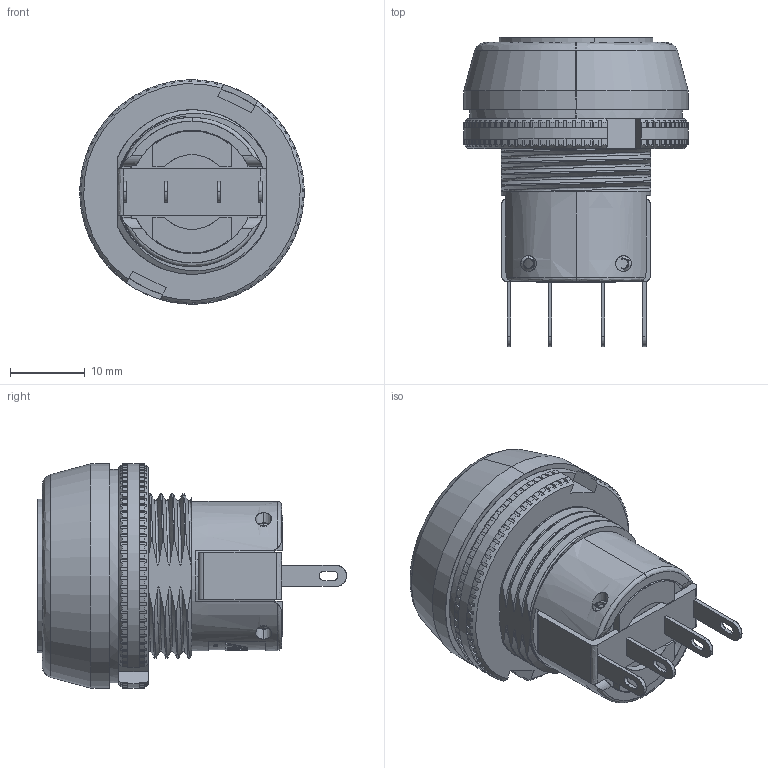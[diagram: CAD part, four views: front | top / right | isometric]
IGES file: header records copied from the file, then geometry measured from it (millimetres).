
Start section: SolidWorks IGES file using analytic representation for surfaces
Global section: file name: X:\Archive - Switch\Switches Series (Top Levels)\series 76-94\Step & Iges Files\76-949121.IGS; native system: SolidWorks 2015; preprocessor: SolidWorks 2015; author: Alan_B; date: 150601.091819; units: millimetre
Bounding box: 30 x 41.35 x 30 mm (x, y, z)
Surface area: 4707.9 mm2 (no closed solid volume)
Topology: 0 solids, 0 shells, 869 faces, 7116 edges, 7115 vertices
Faces by surface type: bspline 449, revolution 420
